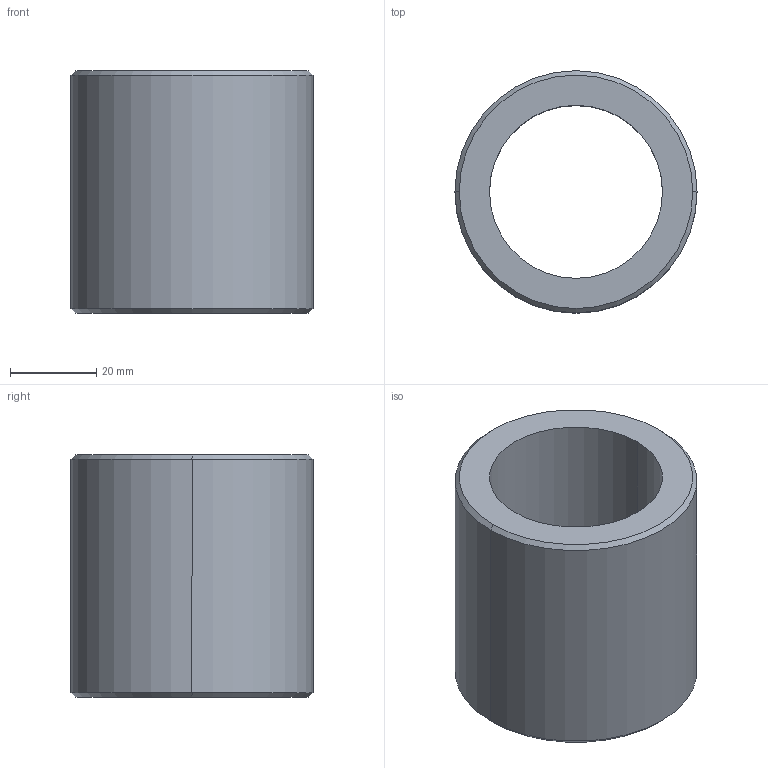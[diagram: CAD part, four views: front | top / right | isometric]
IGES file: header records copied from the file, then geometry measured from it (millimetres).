
Start section: 3D InterOp IGES (Version 21 0 1), Spatial Corp. Copyright (c) 1999-2007.
Global section: file name: DB-40.igs; native system: Spatial Corp.; preprocessor: 3D InterOp GENERIC/IGES 3.0; author: Noname; organization: Noname; date: 20220208.162723; units: millimetre
Bounding box: 56 x 56 x 56 mm (x, y, z)
Surface area: 19093.2 mm2 (no closed solid volume)
Topology: 0 solids, 0 shells, 10 faces, 40 edges, 40 vertices
Faces by surface type: revolution 8, extrusion 2
